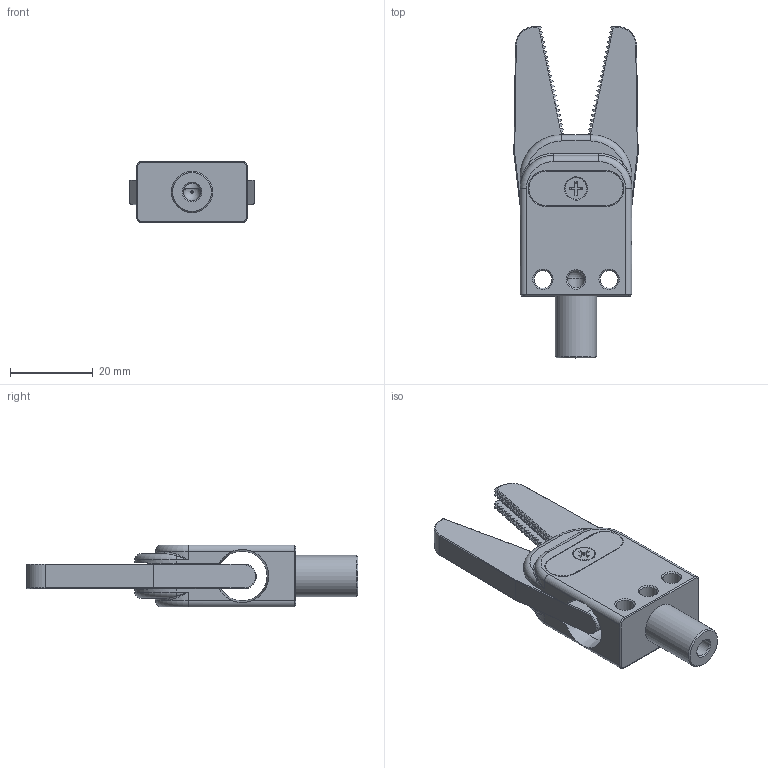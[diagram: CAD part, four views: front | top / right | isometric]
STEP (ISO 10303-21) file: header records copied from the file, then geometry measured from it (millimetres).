
FILE_DESCRIPTION(/* description */ (''),/* implementation_level */ '2;1');
FILE_NAME(/* name */ '_model1.stp',/* time_stamp */ '2023-03-08T11:09:35+08:00',/* author */ (''),/* organization */ (''),/* preprocessor_version */ 'ST-DEVELOPER v16',/* originating_system */ 'SIEMENS PLM Software NX 10.0',/* authorisation */ '');
FILE_SCHEMA (('AUTOMOTIVE_DESIGN { 1 0 10303 214 3 1 1 1 }'));
Length unit declared in the file: millimetre
Products named in the file (1): Admi115498B06iko
Bounding box: 30.07 x 80.33 x 15 mm (x, y, z)
Volume: 14630.9 mm3; surface area: 8584.1 mm2
Topology: 1 solids, 8 shells, 1096 faces, 2531 edges, 1448 vertices
Faces by surface type: plane 958, cylinder 59, cone 58, torus 12, bspline 8, sphere 1
Full cylindrical faces by diameter (mm): 0.5 x1, 2.2 x2, 2.5 x1, 3 x3, 3.5 x1, 4.2 x2, 4.3 x2, 5.2 x1, 10 x1, 12 x1
Entity records: 37342 total; most frequent: CARTESIAN_POINT 5519, ORIENTED_EDGE 4950, DIRECTION 4818, EDGE_CURVE 2475, LINE 2214, VECTOR 2214, VERTEX_POINT 1432, AXIS2_PLACEMENT_3D 1302
